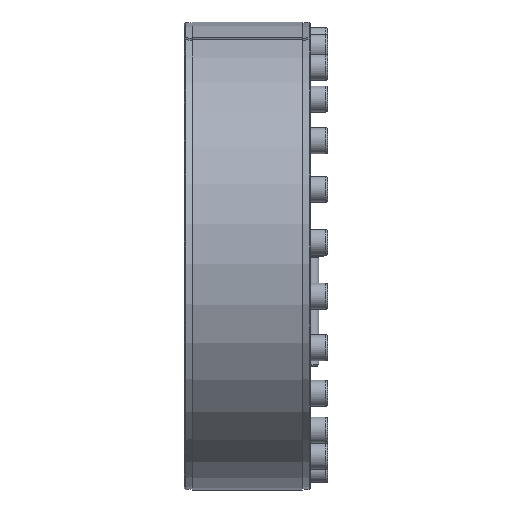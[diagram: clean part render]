
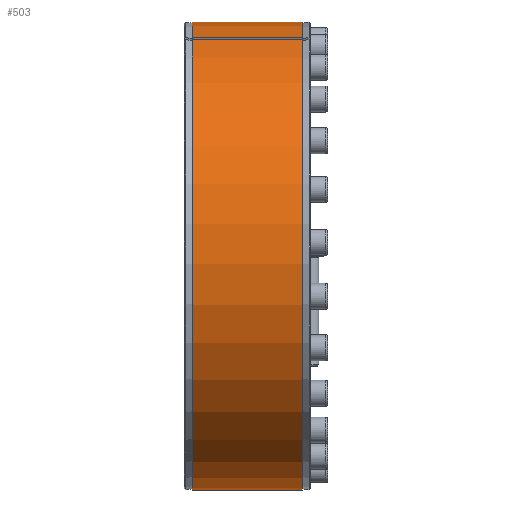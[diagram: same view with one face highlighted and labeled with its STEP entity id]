
A CAD part, left-side view. The second image highlights one B-rep face of the part: STEP entity #503.
In plain terms, the highlighted cylindrical face has radius 297.5 mm (diameter 595 mm), a partial arc.
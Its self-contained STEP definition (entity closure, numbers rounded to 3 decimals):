
#503 = ADVANCED_FACE( '', ( #951 ), #952, .T. );
#951 = FACE_OUTER_BOUND( '', #1438, .T. );
#952 = CYLINDRICAL_SURFACE( '', #1439, 297.5 );
#1438 = EDGE_LOOP( '', ( #2090, #2091, #2092, #2093 ) );
#1439 = AXIS2_PLACEMENT_3D( '', #2094, #2095, #2096 );
#2090 = ORIENTED_EDGE( '', *, *, #2725, .T. );
#2091 = ORIENTED_EDGE( '', *, *, #2679, .T. );
#2092 = ORIENTED_EDGE( '', *, *, #2758, .F. );
#2093 = ORIENTED_EDGE( '', *, *, #2880, .T. );
#2094 = CARTESIAN_POINT( '', ( 0., -60., 0. ) );
#2095 = DIRECTION( '', ( 0., 1., 0. ) );
#2096 = DIRECTION( '', ( 0., 0., -1. ) );
#2679 = EDGE_CURVE( '', #2984, #2982, #2985, .T. );
#2725 = EDGE_CURVE( '', #3070, #2984, #3071, .T. );
#2758 = EDGE_CURVE( '', #3132, #2982, #3133, .T. );
#2880 = EDGE_CURVE( '', #3132, #3070, #3363, .F. );
#2982 = VERTEX_POINT( '', #3439 );
#2984 = VERTEX_POINT( '', #3442 );
#2985 = LINE( '', #3443, #3444 );
#3070 = VERTEX_POINT( '', #3554 );
#3071 = CIRCLE( '', #3555, 297.5 );
#3132 = VERTEX_POINT( '', #3624 );
#3133 = CIRCLE( '', #3625, 297.5 );
#3363 = LINE( '', #3878, #3879 );
#3439 = CARTESIAN_POINT( '', ( -106.255, 10., 277.878 ) );
#3442 = CARTESIAN_POINT( '', ( -106.255, 150., 277.878 ) );
#3443 = CARTESIAN_POINT( '', ( -106.255, -60., 277.878 ) );
#3444 = VECTOR( '', #3894, 1000. );
#3554 = CARTESIAN_POINT( '', ( -112.764, 150., 275.301 ) );
#3555 = AXIS2_PLACEMENT_3D( '', #4001, #4002, #4003 );
#3624 = CARTESIAN_POINT( '', ( -112.764, 10., 275.301 ) );
#3625 = AXIS2_PLACEMENT_3D( '', #4090, #4091, #4092 );
#3878 = CARTESIAN_POINT( '', ( -112.764, -60., 275.301 ) );
#3879 = VECTOR( '', #4425, 1000. );
#3894 = DIRECTION( '', ( 0., -1., 0. ) );
#4001 = CARTESIAN_POINT( '', ( 0., 150., 0. ) );
#4002 = DIRECTION( '', ( 0., -1., 0. ) );
#4003 = DIRECTION( '', ( 0., 0., -1. ) );
#4090 = CARTESIAN_POINT( '', ( 0., 10., 0. ) );
#4091 = DIRECTION( '', ( 0., -1., 0. ) );
#4092 = DIRECTION( '', ( 0., 0., -1. ) );
#4425 = DIRECTION( '', ( 0., -1., 0. ) );
